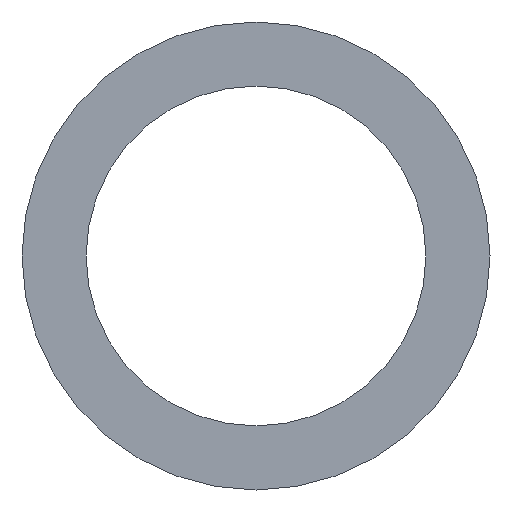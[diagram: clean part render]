
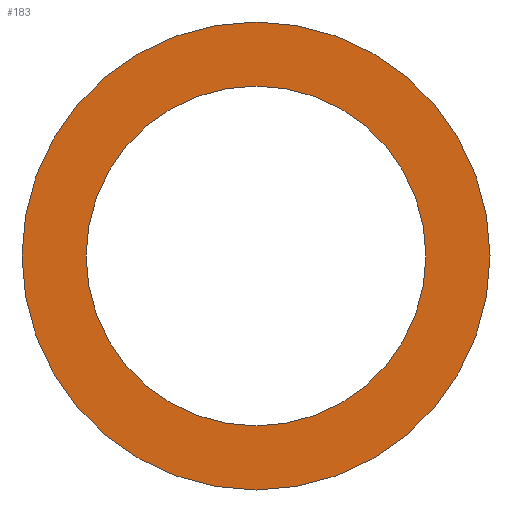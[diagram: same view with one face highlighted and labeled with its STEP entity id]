
A CAD part, left-side view. The second image highlights one B-rep face of the part: STEP entity #183.
In plain terms, the highlighted planar face has unit normal (-1, 0, 0).
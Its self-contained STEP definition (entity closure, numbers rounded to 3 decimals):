
#22 = VERTEX_POINT('',#23);
#23 = CARTESIAN_POINT('',(-11.,42.,0.));
#32 = CYLINDRICAL_SURFACE('',#33,42.);
#33 = AXIS2_PLACEMENT_3D('',#34,#35,#36);
#34 = CARTESIAN_POINT('',(-11.,0.,0.));
#35 = DIRECTION('',(-1.,-0.,-0.));
#36 = DIRECTION('',(0.,1.,0.));
#79 = EDGE_CURVE('',#22,#22,#80,.T.);
#80 = SURFACE_CURVE('',#81,(#86,#93),.PCURVE_S1.);
#81 = CIRCLE('',#82,42.);
#82 = AXIS2_PLACEMENT_3D('',#83,#84,#85);
#83 = CARTESIAN_POINT('',(-11.,0.,0.));
#84 = DIRECTION('',(1.,0.,0.));
#85 = DIRECTION('',(0.,1.,0.));
#86 = PCURVE('',#32,#87);
#87 = DEFINITIONAL_REPRESENTATION('',(#88),#92);
#88 = LINE('',#89,#90);
#89 = CARTESIAN_POINT('',(-0.,0.));
#90 = VECTOR('',#91,1.);
#91 = DIRECTION('',(-1.,0.));
#92 = ( GEOMETRIC_REPRESENTATION_CONTEXT(2) 
PARAMETRIC_REPRESENTATION_CONTEXT() REPRESENTATION_CONTEXT('2D SPACE',''
  ) );
#93 = PCURVE('',#94,#99);
#94 = PLANE('',#95);
#95 = AXIS2_PLACEMENT_3D('',#96,#97,#98);
#96 = CARTESIAN_POINT('',(-11.,0.,0.)
  );
#97 = DIRECTION('',(1.,0.,0.));
#98 = DIRECTION('',(-0.,0.,1.));
#99 = DEFINITIONAL_REPRESENTATION('',(#100),#104);
#100 = CIRCLE('',#101,42.);
#101 = AXIS2_PLACEMENT_2D('',#102,#103);
#102 = CARTESIAN_POINT('',(0.,0.));
#103 = DIRECTION('',(0.,-1.));
#104 = ( GEOMETRIC_REPRESENTATION_CONTEXT(2) 
PARAMETRIC_REPRESENTATION_CONTEXT() REPRESENTATION_CONTEXT('2D SPACE',''
  ) );
#110 = VERTEX_POINT('',#111);
#111 = CARTESIAN_POINT('',(-11.,30.5,0.));
#120 = CYLINDRICAL_SURFACE('',#121,30.5);
#121 = AXIS2_PLACEMENT_3D('',#122,#123,#124);
#122 = CARTESIAN_POINT('',(-11.,0.,0.));
#123 = DIRECTION('',(-1.,-0.,-0.));
#124 = DIRECTION('',(0.,1.,0.));
#162 = EDGE_CURVE('',#110,#110,#163,.T.);
#163 = SURFACE_CURVE('',#164,(#169,#176),.PCURVE_S1.);
#164 = CIRCLE('',#165,30.5);
#165 = AXIS2_PLACEMENT_3D('',#166,#167,#168);
#166 = CARTESIAN_POINT('',(-11.,0.,0.));
#167 = DIRECTION('',(1.,0.,0.));
#168 = DIRECTION('',(0.,1.,0.));
#169 = PCURVE('',#120,#170);
#170 = DEFINITIONAL_REPRESENTATION('',(#171),#175);
#171 = LINE('',#172,#173);
#172 = CARTESIAN_POINT('',(-0.,0.));
#173 = VECTOR('',#174,1.);
#174 = DIRECTION('',(-1.,0.));
#175 = ( GEOMETRIC_REPRESENTATION_CONTEXT(2) 
PARAMETRIC_REPRESENTATION_CONTEXT() REPRESENTATION_CONTEXT('2D SPACE',''
  ) );
#176 = PCURVE('',#94,#177);
#177 = DEFINITIONAL_REPRESENTATION('',(#178),#182);
#178 = CIRCLE('',#179,30.5);
#179 = AXIS2_PLACEMENT_2D('',#180,#181);
#180 = CARTESIAN_POINT('',(0.,0.));
#181 = DIRECTION('',(0.,-1.));
#182 = ( GEOMETRIC_REPRESENTATION_CONTEXT(2) 
PARAMETRIC_REPRESENTATION_CONTEXT() REPRESENTATION_CONTEXT('2D SPACE',''
  ) );
#183 = ADVANCED_FACE('',(#184,#187),#94,.F.);
#184 = FACE_BOUND('',#185,.F.);
#185 = EDGE_LOOP('',(#186));
#186 = ORIENTED_EDGE('',*,*,#79,.T.);
#187 = FACE_BOUND('',#188,.F.);
#188 = EDGE_LOOP('',(#189));
#189 = ORIENTED_EDGE('',*,*,#162,.F.);
